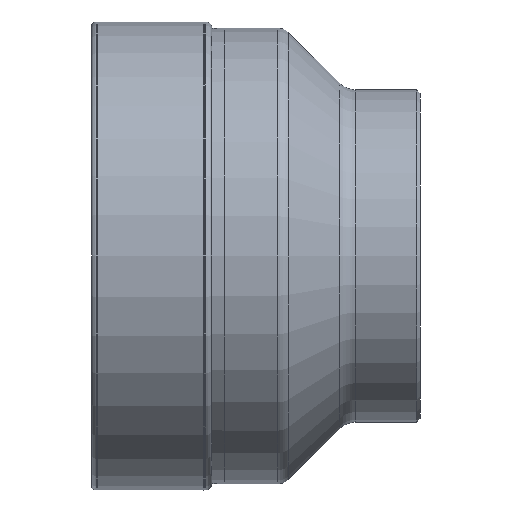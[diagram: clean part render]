
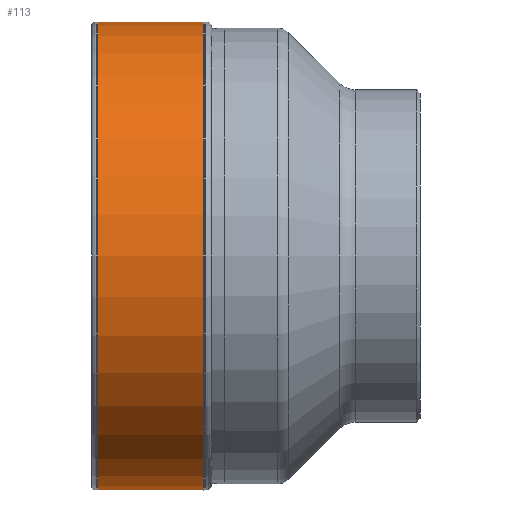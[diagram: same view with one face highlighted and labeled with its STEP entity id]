
A CAD part, front view. The second image highlights one B-rep face of the part: STEP entity #113.
In plain terms, the highlighted face is a revolution surface.
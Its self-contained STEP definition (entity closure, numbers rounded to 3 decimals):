
#47=SURFACE_OF_REVOLUTION('',#77,#62);
#62=AXIS1_PLACEMENT('',#661,#523);
#77=B_SPLINE_CURVE_WITH_KNOTS('',5,(#655,#656,#657,#658,#659,#660),
 .UNSPECIFIED.,.F.,.F.,(6,6),(0.,1.),.UNSPECIFIED.);
#113=ADVANCED_FACE('',(#166,#167),#47,.T.);
#166=FACE_BOUND('',#227,.T.);
#167=FACE_BOUND('',#228,.T.);
#227=EDGE_LOOP('',(#289));
#228=EDGE_LOOP('',(#290));
#289=ORIENTED_EDGE('',*,*,#368,.F.);
#290=ORIENTED_EDGE('',*,*,#367,.T.);
#336=VERTEX_POINT('',#645);
#337=VERTEX_POINT('',#654);
#367=EDGE_CURVE('',#336,#336,#398,.T.);
#368=EDGE_CURVE('',#337,#337,#399,.T.);
#398=CIRCLE('',#440,31.665);
#399=CIRCLE('',#441,31.664);
#440=AXIS2_PLACEMENT_3D('',#644,#518,#519);
#441=AXIS2_PLACEMENT_3D('',#653,#521,#522);
#518=DIRECTION('',(-1.,0.,0.));
#519=DIRECTION('',(0.,0.,1.));
#521=DIRECTION('',(-1.,0.,0.));
#522=DIRECTION('',(0.,0.,1.));
#523=DIRECTION('',(-1.,0.,0.));
#644=CARTESIAN_POINT('',(15.056,0.,0.));
#645=CARTESIAN_POINT('',(15.056,0.,31.665));
#653=CARTESIAN_POINT('',(0.831,0.,0.));
#654=CARTESIAN_POINT('',(0.831,0.,31.664));
#655=CARTESIAN_POINT('',(15.056,31.665,0.));
#656=CARTESIAN_POINT('',(12.211,31.693,0.));
#657=CARTESIAN_POINT('',(9.366,31.707,0.));
#658=CARTESIAN_POINT('',(6.521,31.706,0.));
#659=CARTESIAN_POINT('',(3.676,31.692,0.));
#660=CARTESIAN_POINT('',(0.831,31.664,0.));
#661=CARTESIAN_POINT('',(0.,0.,0.));
